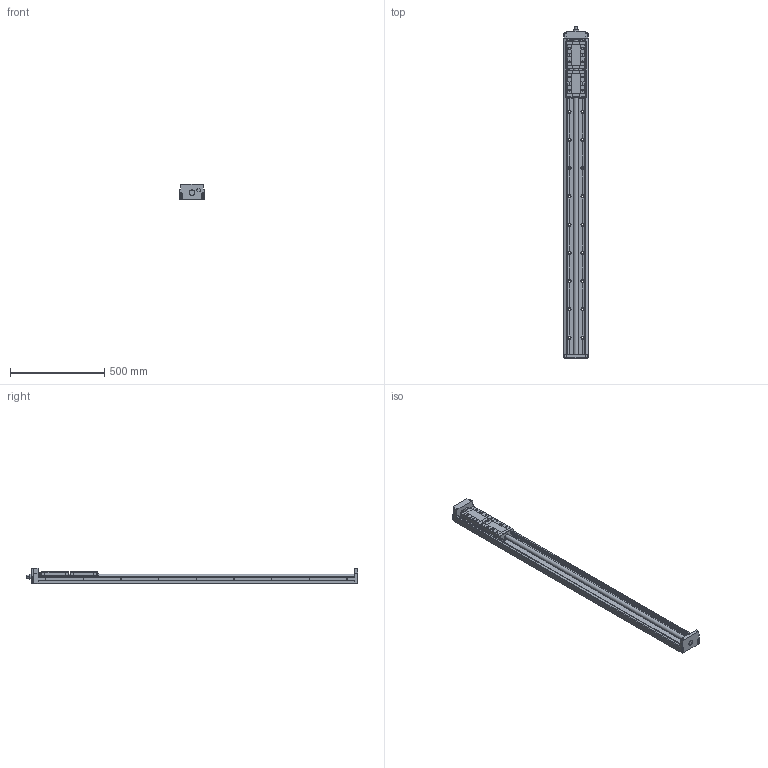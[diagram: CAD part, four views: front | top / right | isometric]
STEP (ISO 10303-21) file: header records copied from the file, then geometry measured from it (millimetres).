
FILE_DESCRIPTION(('no description'),'unknown implementation level');
FILE_NAME('KK13025P1680A2H0000_FILE_67.stp',' ',('HIWIN GmbH'),('CADClick - KiM GmbH - www.kimweb.de'),'unknown preprocess','ACIS','unknown authorization');
FILE_SCHEMA(('automotive_design'));
Length unit declared in the file: millimetre
Products named in the file (3): KK13025P1680A2H0000_FILE_1; KK130_FILE; KK13025P1680A2H0000_FILE
Bounding box: 130 x 1762 x 83 mm (x, y, z)
Volume: 6921320.2 mm3; surface area: 983109.7 mm2
Topology: 3 solids, 19 shells, 1083 faces, 2668 edges, 1722 vertices
Faces by surface type: plane 665, cylinder 366, torus 44, sphere 4, cone 4
Entity records: 62938 total; most frequent: DIRECTION 5764, CARTESIAN_POINT 5688, STYLED_ITEM 5472, PRESENTATION_STYLE_ASSIGNMENT 5472, COLOUR_RGB 5472, ORIENTED_EDGE 5328, EDGE_CURVE 2664, CURVE_STYLE 2664
